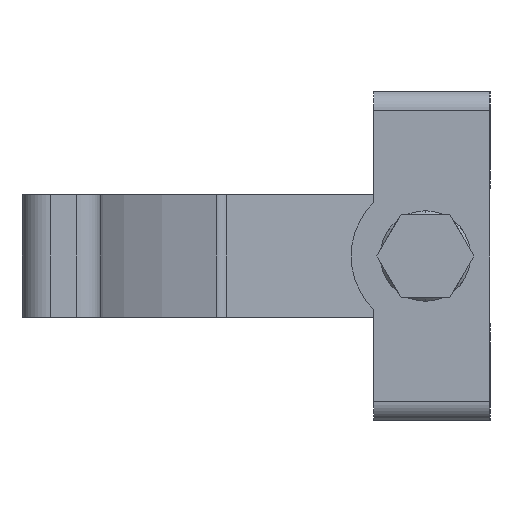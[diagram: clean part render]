
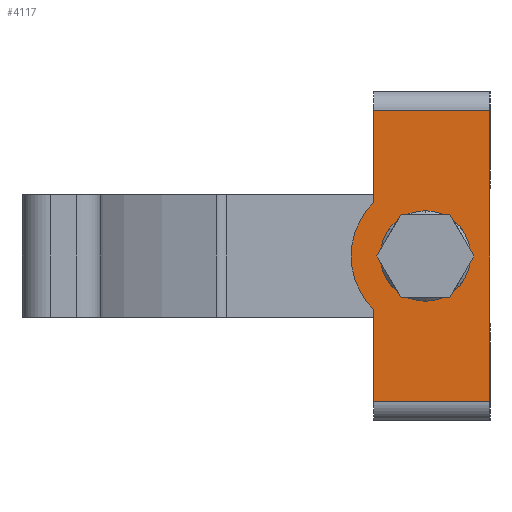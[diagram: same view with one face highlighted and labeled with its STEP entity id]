
A CAD part, left-side view. The second image highlights one B-rep face of the part: STEP entity #4117.
In plain terms, the highlighted planar face has unit normal (-1, 0, 0) as drawn and (0, 0, 1) by its records, which use the part's own axes.
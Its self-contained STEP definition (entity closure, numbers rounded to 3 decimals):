
#246 = EDGE_CURVE ( 'NONE', #2657, #2458, #4298, .T. ) ;
#833 = CARTESIAN_POINT ( 'NONE',  ( -25.5, 18., 55.5 ) ) ;
#837 = FACE_BOUND ( 'NONE', #7846, .T. ) ;
#838 = FACE_OUTER_BOUND ( 'NONE', #7722, .T. ) ;
#839 = PLANE ( 'NONE',  #6355 ) ;
#841 = DIRECTION ( 'NONE',  ( 0., 0., -1. ) ) ;
#842 = DIRECTION ( 'NONE',  ( -1., 0., 0. ) ) ;
#1192 = CARTESIAN_POINT ( 'NONE',  ( 0., 10., 55.5 ) ) ;
#1193 = DIRECTION ( 'NONE',  ( 0., 0., 1. ) ) ;
#1194 = DIRECTION ( 'NONE',  ( 1., 0., 0. ) ) ;
#1363 = EDGE_CURVE ( 'NONE', #2383, #2327, #6370, .T. ) ;
#1671 = ORIENTED_EDGE ( 'NONE', *, *, #5782, .T. ) ;
#2327 = VERTEX_POINT ( 'NONE', #3277 ) ;
#2339 = VERTEX_POINT ( 'NONE', #3289 ) ;
#2383 = VERTEX_POINT ( 'NONE', #3331 ) ;
#2458 = VERTEX_POINT ( 'NONE', #3405 ) ;
#2657 = VERTEX_POINT ( 'NONE', #3505 ) ;
#2727 = VERTEX_POINT ( 'NONE', #3545 ) ;
#2895 = VERTEX_POINT ( 'NONE', #3648 ) ;
#2962 = VERTEX_POINT ( 'NONE', #3688 ) ;
#3277 = CARTESIAN_POINT ( 'NONE',  ( -8.261, 18., 55.5 ) ) ;
#3289 = CARTESIAN_POINT ( 'NONE',  ( -7., 10., 55.5 ) ) ;
#3331 = CARTESIAN_POINT ( 'NONE',  ( 8.261, 18., 55.5 ) ) ;
#3405 = CARTESIAN_POINT ( 'NONE',  ( -22.5, 0., 55.5 ) ) ;
#3505 = CARTESIAN_POINT ( 'NONE',  ( -22.5, 18., 55.5 ) ) ;
#3545 = CARTESIAN_POINT ( 'NONE',  ( 7., 10., 55.5 ) ) ;
#3648 = CARTESIAN_POINT ( 'NONE',  ( 22.5, 18., 55.5 ) ) ;
#3688 = CARTESIAN_POINT ( 'NONE',  ( 22.5, 0., 55.5 ) ) ;
#4117 = ADVANCED_FACE ( 'NONE', ( #837, #838 ), #839, .F. ) ;
#4210 = EDGE_CURVE ( 'NONE', #2657, #2327, #4888, .T. ) ;
#4229 = EDGE_CURVE ( 'NONE', #2383, #2895, #4942, .T. ) ;
#4234 = EDGE_CURVE ( 'NONE', #2339, #2727, #7319, .T. ) ;
#4298 = LINE ( 'NONE', #4305, #6658 ) ;
#4305 = CARTESIAN_POINT ( 'NONE',  ( -22.5, 18., 55.5 ) ) ;
#4307 = DIRECTION ( 'NONE',  ( 0., -1., 0. ) ) ;
#4573 = LINE ( 'NONE', #4574, #6848 ) ;
#4574 = CARTESIAN_POINT ( 'NONE',  ( 22.5, 18., 55.5 ) ) ;
#4575 = DIRECTION ( 'NONE',  ( 0., 1., 0. ) ) ;
#4585 = LINE ( 'NONE', #4586, #7096 ) ;
#4586 = CARTESIAN_POINT ( 'NONE',  ( -25.5, 0., 55.5 ) ) ;
#4587 = DIRECTION ( 'NONE',  ( 1., 0., 0. ) ) ;
#4709 = CARTESIAN_POINT ( 'NONE',  ( 0., 10., 55.5 ) ) ;
#4710 = DIRECTION ( 'NONE',  ( 0., 0., 1. ) ) ;
#4711 = DIRECTION ( 'NONE',  ( 1., 0., 0. ) ) ;
#4888 = LINE ( 'NONE', #4889, #6708 ) ;
#4889 = CARTESIAN_POINT ( 'NONE',  ( -25.5, 18., 55.5 ) ) ;
#4890 = DIRECTION ( 'NONE',  ( 1., 0., 0. ) ) ;
#4938 = CARTESIAN_POINT ( 'NONE',  ( -25.5, 18., 55.5 ) ) ;
#4942 = LINE ( 'NONE', #4938, #7151 ) ;
#4946 = DIRECTION ( 'NONE',  ( 1., 0., 0. ) ) ;
#4962 = CARTESIAN_POINT ( 'NONE',  ( 0., 10., 55.5 ) ) ;
#4963 = DIRECTION ( 'NONE',  ( 0., 0., 1. ) ) ;
#4964 = DIRECTION ( 'NONE',  ( 1., 0., 0. ) ) ;
#5782 = EDGE_CURVE ( 'NONE', #2962, #2895, #4573, .T. ) ;
#5786 = EDGE_CURVE ( 'NONE', #2458, #2962, #4585, .T. ) ;
#5826 = EDGE_CURVE ( 'NONE', #2727, #2339, #7208, .T. ) ;
#6355 = AXIS2_PLACEMENT_3D ( 'NONE', #833, #841, #842 ) ;
#6370 = CIRCLE ( 'NONE', #6477, 11.5 ) ;
#6477 = AXIS2_PLACEMENT_3D ( 'NONE', #1192, #1193, #1194 ) ;
#6658 = VECTOR ( 'NONE', #4307, 1000. ) ;
#6708 = VECTOR ( 'NONE', #4890, 1000. ) ;
#6844 = AXIS2_PLACEMENT_3D ( 'NONE', #4962, #4963, #4964 ) ;
#6848 = VECTOR ( 'NONE', #4575, 1000. ) ;
#7096 = VECTOR ( 'NONE', #4587, 1000. ) ;
#7151 = VECTOR ( 'NONE', #4946, 1000. ) ;
#7162 = AXIS2_PLACEMENT_3D ( 'NONE', #4709, #4710, #4711 ) ;
#7208 = CIRCLE ( 'NONE', #7162, 7. ) ;
#7319 = CIRCLE ( 'NONE', #6844, 7. ) ;
#7608 = ORIENTED_EDGE ( 'NONE', *, *, #4234, .F. ) ;
#7613 = ORIENTED_EDGE ( 'NONE', *, *, #4210, .F. ) ;
#7619 = ORIENTED_EDGE ( 'NONE', *, *, #1363, .T. ) ;
#7622 = ORIENTED_EDGE ( 'NONE', *, *, #5826, .F. ) ;
#7626 = ORIENTED_EDGE ( 'NONE', *, *, #4229, .F. ) ;
#7688 = ORIENTED_EDGE ( 'NONE', *, *, #5786, .T. ) ;
#7701 = ORIENTED_EDGE ( 'NONE', *, *, #246, .T. ) ;
#7722 = EDGE_LOOP ( 'NONE', ( #7688, #1671, #7626, #7619, #7613, #7701 ) ) ;
#7846 = EDGE_LOOP ( 'NONE', ( #7622, #7608 ) ) ;
